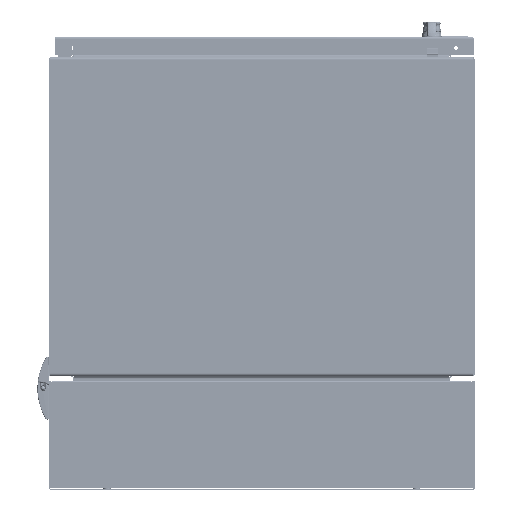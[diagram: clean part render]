
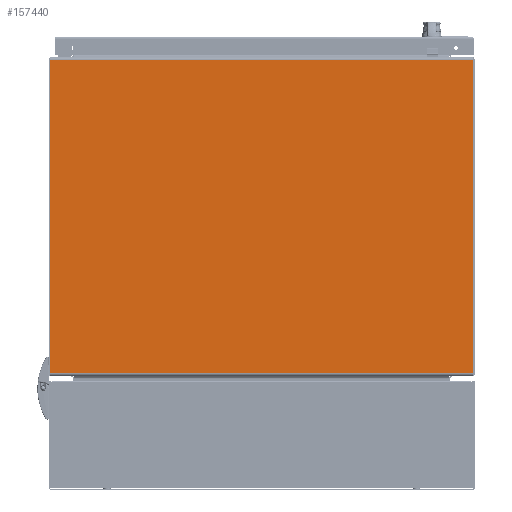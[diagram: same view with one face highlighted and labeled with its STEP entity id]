
A CAD part, front view. The second image highlights one B-rep face of the part: STEP entity #157440.
In plain terms, the highlighted planar face has unit normal (0, -1, 0).
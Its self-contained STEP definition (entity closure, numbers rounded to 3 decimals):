
#1218 = CARTESIAN_POINT ( 'NONE',  ( 298.171, 0., -225. ) ) ;
#1222 = DIRECTION ( 'NONE',  ( 0., 0., -1. ) ) ;
#1229 = CARTESIAN_POINT ( 'NONE',  ( 298.171, 0., 220.885 ) ) ;
#1230 = DIRECTION ( 'NONE',  ( -1., 0., 0. ) ) ;
#1233 = CARTESIAN_POINT ( 'NONE',  ( -298.171, 0., -225. ) ) ;
#1239 = DIRECTION ( 'NONE',  ( 0., 0., 1. ) ) ;
#1247 = CARTESIAN_POINT ( 'NONE',  ( -298.171, 0., -220.885 ) ) ;
#1248 = DIRECTION ( 'NONE',  ( 1., 0., 0. ) ) ;
#13941 = VERTEX_POINT ( 'NONE', #78002 ) ;
#13977 = VERTEX_POINT ( 'NONE', #78068 ) ;
#13979 = VERTEX_POINT ( 'NONE', #78072 ) ;
#14000 = VERTEX_POINT ( 'NONE', #78110 ) ;
#18368 = EDGE_LOOP ( 'NONE', ( #18780, #18779, #18743, #18805 ) ) ;
#18743 = ORIENTED_EDGE ( 'NONE', *, *, #70195, .T. ) ;
#18779 = ORIENTED_EDGE ( 'NONE', *, *, #70191, .F. ) ;
#18780 = ORIENTED_EDGE ( 'NONE', *, *, #70203, .T. ) ;
#18805 = ORIENTED_EDGE ( 'NONE', *, *, #70199, .F. ) ;
#70191 = EDGE_CURVE ( 'NONE', #13979, #13977, #159145, .T. ) ;
#70195 = EDGE_CURVE ( 'NONE', #13979, #14000, #159154, .T. ) ;
#70199 = EDGE_CURVE ( 'NONE', #13941, #14000, #159161, .T. ) ;
#70203 = EDGE_CURVE ( 'NONE', #13941, #13977, #159164, .T. ) ;
#71805 = AXIS2_PLACEMENT_3D ( 'NONE', #123285, #123295, #123296 ) ;
#78002 = CARTESIAN_POINT ( 'NONE',  ( -298.171, 0., -220.885 ) ) ;
#78068 = CARTESIAN_POINT ( 'NONE',  ( 298.171, 0., -220.885 ) ) ;
#78072 = CARTESIAN_POINT ( 'NONE',  ( 298.171, 0., 220.885 ) ) ;
#78110 = CARTESIAN_POINT ( 'NONE',  ( -298.171, 0., 220.885 ) ) ;
#105105 = FACE_OUTER_BOUND ( 'NONE', #18368, .T. ) ;
#123285 = CARTESIAN_POINT ( 'NONE',  ( 298.171, 0., 225. ) ) ;
#123290 = PLANE ( 'NONE',  #71805 ) ;
#123295 = DIRECTION ( 'NONE',  ( 0., 1., 0. ) ) ;
#123296 = DIRECTION ( 'NONE',  ( 0., 0., 1. ) ) ;
#157440 = ADVANCED_FACE ( 'NONE', ( #105105 ), #123290, .F. ) ;
#159145 = LINE ( 'NONE', #1218, #159148 ) ;
#159148 = VECTOR ( 'NONE', #1222, 1000. ) ;
#159154 = LINE ( 'NONE', #1229, #159155 ) ;
#159155 = VECTOR ( 'NONE', #1230, 1000. ) ;
#159157 = VECTOR ( 'NONE', #1248, 1000. ) ;
#159159 = VECTOR ( 'NONE', #1239, 1000. ) ;
#159161 = LINE ( 'NONE', #1233, #159159 ) ;
#159164 = LINE ( 'NONE', #1247, #159157 ) ;
